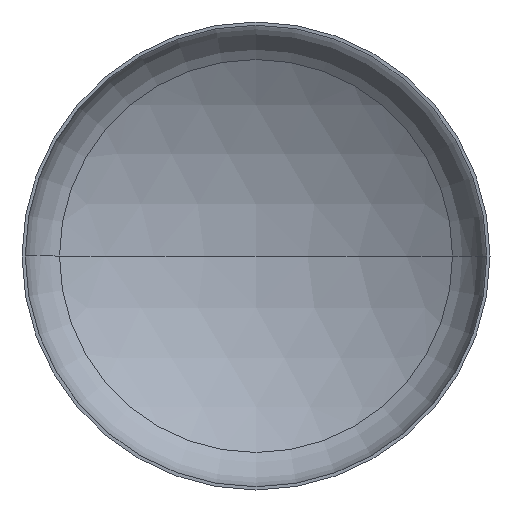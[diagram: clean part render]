
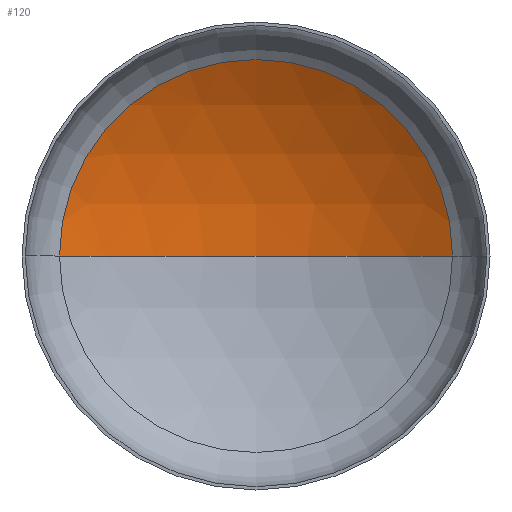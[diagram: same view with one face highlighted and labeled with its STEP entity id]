
A CAD part, front view. The second image highlights one B-rep face of the part: STEP entity #120.
In plain terms, the highlighted spherical face has radius 6000 mm.
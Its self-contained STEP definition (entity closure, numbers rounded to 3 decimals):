
#5 = VERTEX_POINT ( 'NONE', #227 ) ;
#14 = EDGE_CURVE ( 'NONE', #131, #150, #242, .T. ) ;
#16 = CIRCLE ( 'NONE', #300, 6000. ) ;
#71 = ORIENTED_EDGE ( 'NONE', *, *, #14, .T. ) ;
#75 = EDGE_CURVE ( 'NONE', #5, #131, #298, .T. ) ;
#78 = ORIENTED_EDGE ( 'NONE', *, *, #75, .T. ) ;
#97 = EDGE_CURVE ( 'NONE', #5, #150, #16, .T. ) ;
#120 = ADVANCED_FACE ( 'NONE', ( #364 ), #216, .F. ) ;
#131 = VERTEX_POINT ( 'NONE', #317 ) ;
#150 = VERTEX_POINT ( 'NONE', #192 ) ;
#154 = DIRECTION ( 'NONE',  ( 0., 0., -1. ) ) ;
#172 = EDGE_LOOP ( 'NONE', ( #180, #78, #71 ) ) ;
#175 = DIRECTION ( 'NONE',  ( -1., 0., 0. ) ) ;
#180 = ORIENTED_EDGE ( 'NONE', *, *, #97, .F. ) ;
#192 = CARTESIAN_POINT ( 'NONE',  ( -3149.226, 1103.115, 0. ) ) ;
#204 = AXIS2_PLACEMENT_3D ( 'NONE', #240, #239, #214 ) ;
#214 = DIRECTION ( 'NONE',  ( 1., 0., 0. ) ) ;
#216 = SPHERICAL_SURFACE ( 'NONE', #372, 6000. ) ;
#218 = CARTESIAN_POINT ( 'NONE',  ( 0., -4003.976, 0. ) ) ;
#227 = CARTESIAN_POINT ( 'NONE',  ( 0., 1996.024, 0. ) ) ;
#239 = DIRECTION ( 'NONE',  ( 0., -1., 0. ) ) ;
#240 = CARTESIAN_POINT ( 'NONE',  ( 0., 1103.115, 0. ) ) ;
#242 = CIRCLE ( 'NONE', #204, 3149.226 ) ;
#283 = AXIS2_PLACEMENT_3D ( 'NONE', #321, #154, #175 ) ;
#284 = DIRECTION ( 'NONE',  ( -1., 0., 0. ) ) ;
#288 = CARTESIAN_POINT ( 'NONE',  ( 0., -4003.976, 0. ) ) ;
#298 = CIRCLE ( 'NONE', #283, 6000. ) ;
#300 = AXIS2_PLACEMENT_3D ( 'NONE', #218, #375, #377 ) ;
#317 = CARTESIAN_POINT ( 'NONE',  ( 3149.226, 1103.115, 0. ) ) ;
#321 = CARTESIAN_POINT ( 'NONE',  ( 0., -4003.976, 0. ) ) ;
#347 = DIRECTION ( 'NONE',  ( 0., 0., -1. ) ) ;
#364 = FACE_OUTER_BOUND ( 'NONE', #172, .T. ) ;
#372 = AXIS2_PLACEMENT_3D ( 'NONE', #288, #347, #284 ) ;
#375 = DIRECTION ( 'NONE',  ( 0., 0., 1. ) ) ;
#377 = DIRECTION ( 'NONE',  ( 1., 0., 0. ) ) ;
